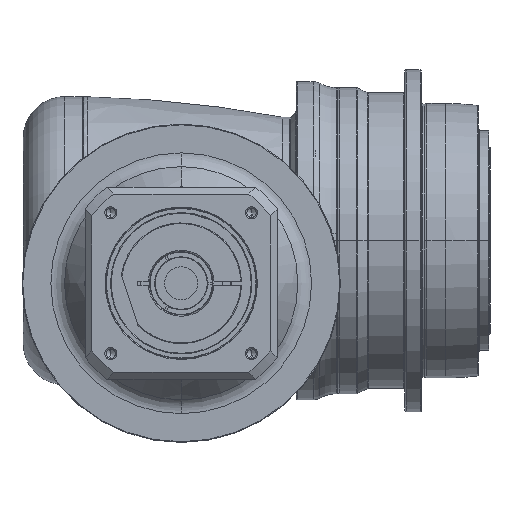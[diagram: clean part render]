
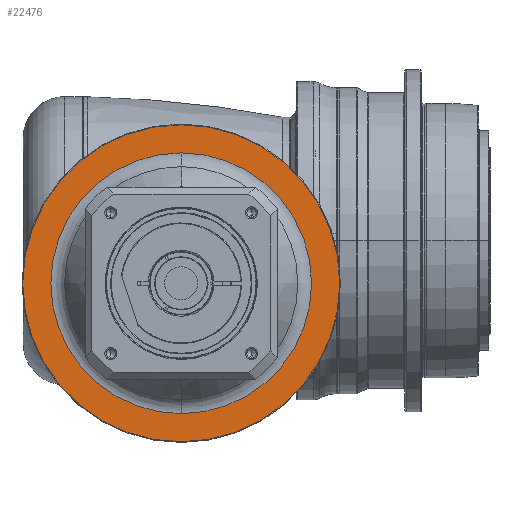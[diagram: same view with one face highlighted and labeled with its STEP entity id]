
A CAD part, front view. The second image highlights one B-rep face of the part: STEP entity #22476.
In plain terms, the highlighted planar face has unit normal (0, -1, 0) as drawn and (1, 0, 0) by its records, which use the part's own axes.
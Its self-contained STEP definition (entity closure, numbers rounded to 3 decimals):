
#20244=CARTESIAN_POINT('',(-33.5,0.,0.));
#20245=DIRECTION('',(-1.,0.,0.));
#20246=DIRECTION('',(0.,-1.,0.));
#20247=AXIS2_PLACEMENT_3D('',#20244,#20245,#20246);
#20249=CARTESIAN_POINT('',(-33.5,0.,0.));
#20250=DIRECTION('',(-1.,0.,0.));
#20251=DIRECTION('',(0.,1.,0.));
#20252=AXIS2_PLACEMENT_3D('',#20249,#20250,#20251);
#20254=CARTESIAN_POINT('',(-33.5,0.,0.));
#20255=DIRECTION('',(1.,0.,0.));
#20256=DIRECTION('',(0.,1.,0.));
#20257=AXIS2_PLACEMENT_3D('',#20254,#20255,#20256);
#20264=CARTESIAN_POINT('',(-33.5,0.,0.));
#20265=DIRECTION('',(-1.,0.,0.));
#20266=DIRECTION('',(0.,1.,0.));
#20267=AXIS2_PLACEMENT_3D('',#20264,#20265,#20266);
#21059=CARTESIAN_POINT('',(-33.5,-115.5,0.));
#21060=CARTESIAN_POINT('',(-33.5,115.5,0.));
#21061=VERTEX_POINT('',#21059);
#21062=VERTEX_POINT('',#21060);
#21103=CARTESIAN_POINT('',(-33.5,95.,0.));
#21105=VERTEX_POINT('',#21103);
#21107=CARTESIAN_POINT('',(-33.5,-95.,0.));
#21109=VERTEX_POINT('',#21107);
#22461=CARTESIAN_POINT('',(-33.5,0.,0.));
#22462=DIRECTION('',(1.,0.,0.));
#22463=DIRECTION('',(0.,-1.,0.));
#22464=AXIS2_PLACEMENT_3D('',#22461,#22462,#22463);
#22465=PLANE('',#22464);
#22466=ORIENTED_EDGE('',*,*,#22417,.T.);
#22467=ORIENTED_EDGE('',*,*,#22402,.T.);
#22468=EDGE_LOOP('',(#22466,#22467));
#22469=FACE_OUTER_BOUND('',#22468,.F.);
#22471=ORIENTED_EDGE('',*,*,#22470,.T.);
#22473=ORIENTED_EDGE('',*,*,#22472,.F.);
#22474=EDGE_LOOP('',(#22471,#22473));
#22475=FACE_BOUND('',#22474,.F.);
#22476=ADVANCED_FACE('',(#22469,#22475),#22465,.T.);
#20248=CIRCLE('',#20247,115.5);
#20253=CIRCLE('',#20252,115.5);
#20258=CIRCLE('',#20257,95.);
#20268=CIRCLE('',#20267,95.);
#22402=EDGE_CURVE('',#21062,#21061,#20253,.T.);
#22417=EDGE_CURVE('',#21061,#21062,#20248,.T.);
#22470=EDGE_CURVE('',#21105,#21109,#20258,.T.);
#22472=EDGE_CURVE('',#21105,#21109,#20268,.T.);
